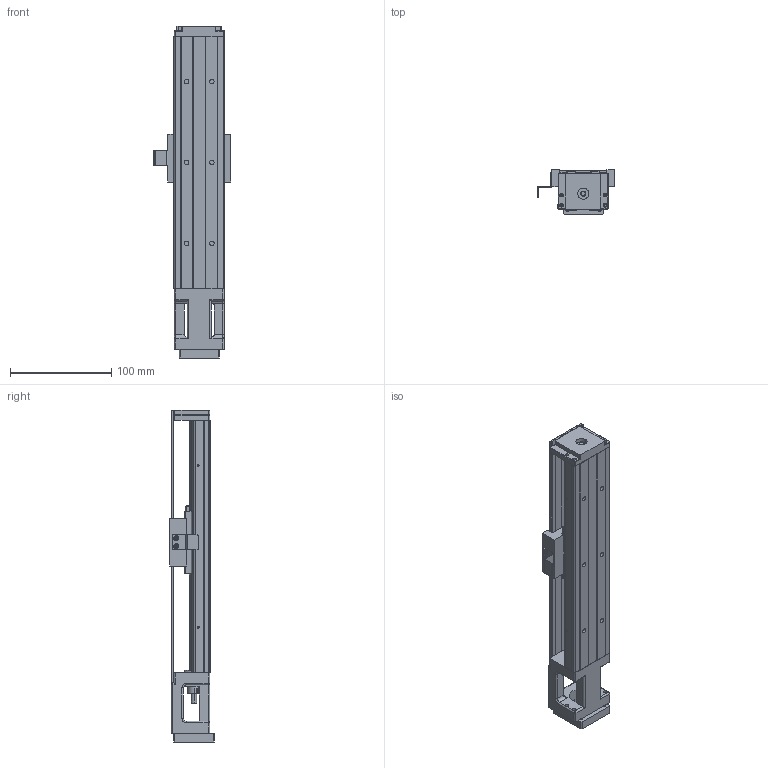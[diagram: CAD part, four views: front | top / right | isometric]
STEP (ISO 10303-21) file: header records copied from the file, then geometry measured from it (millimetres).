
FILE_DESCRIPTION (( 'STEP AP203' ), '1' );
FILE_NAME ('SK50-02-250.step', '2023-01-14T07:19:14', ( '' ), ( '' ), 'SwSTEP 2.0', 'SolidWorks 2018', '' );
FILE_SCHEMA (( 'CONFIG_CONTROL_DESIGN' ));
Length unit declared in the file: millimetre
Products named in the file (15): ______KK-50-CV-250.STEP; KK50______.STEP; 671____KK-50-S1-D1.STEP; KK50____.STEP; KK50-250A1-F2CS1-AC1005.STEP; KK50______-1.STEP; SK50-02-250; KK50__________.STEP; KK50________.STEP; KK50______-2.STEP; KK50-250____.STEP; ____KK-50-F2.STEP; KK50-250____-0.STEP; ______KK-50-FS.STEP; KK50-A1____.STEP
Assembly tree (15 placements, depth 3):
  SK50-02-250
    KK50-250A1-F2CS1-AC1005.STEP
      KK50-250____.STEP
      KK50-250____-0.STEP
      KK50-A1____.STEP
      KK50______.STEP  x2
      KK50____.STEP
      KK50______-1.STEP
      KK50__________.STEP
      KK50________.STEP
      KK50______-2.STEP
      ____KK-50-F2.STEP
      ______KK-50-FS.STEP
      ______KK-50-CV-250.STEP
      671____KK-50-S1-D1.STEP
Bounding box: 76.3 x 44 x 328.5 mm (x, y, z)
Volume: 287996.5 mm3; surface area: 131562.7 mm2
Topology: 14 solids, 19 shells, 928 faces, 2442 edges, 1504 vertices
Faces by surface type: cylinder 442, plane 308, cone 110, bspline 68
Entity records: 31782 total; most frequent: CARTESIAN_POINT 7947, ORIENTED_EDGE 4672, DIRECTION 4596, EDGE_CURVE 2336, AXIS2_PLACEMENT_3D 1677, VERTEX_POINT 1496, VECTOR 1242, LINE 1242
